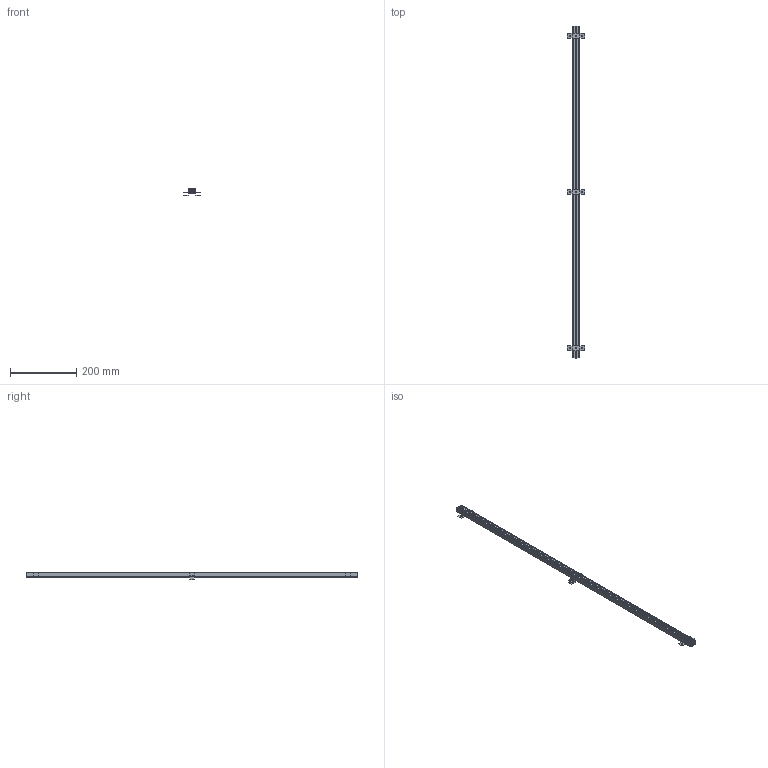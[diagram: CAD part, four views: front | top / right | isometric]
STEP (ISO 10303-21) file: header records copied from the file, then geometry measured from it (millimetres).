
FILE_DESCRIPTION( ( 'Unknown' ), '1' );
FILE_NAME( 'X:/DOCUMENTAZIONE/PROGETTI Roadmap/2014 - W1/007-RECESSED HOMOGENEOUS PROFILE/DISEGNI e 3D FINALI/SLACKLINE 1M.stp', 'Unknown', ( 'Unknown' ), ( 'Unknown' ), 'PSStep 13.0', 'Unknown', ' ' );
FILE_SCHEMA( ( 'AUTOMOTIVE_DESIGN { 1 0 10303 214 1 1 1 1 }' ) );
Length unit declared in the file: millimetre
Products named in the file (4): Assem1; profilo; staffa; schermo
Bounding box: 51.4 x 1000 x 21.25 mm (x, y, z)
Volume: 312757 mm3; surface area: 338176 mm2
Topology: 8 solids, 8 shells, 254 faces, 718 edges, 480 vertices
Faces by surface type: plane 170, cylinder 84
Full cylindrical faces by diameter (mm): 3 x4, 5 x8
Entity records: 4173 total; most frequent: CARTESIAN_POINT 585, ORIENTED_EDGE 570, DIRECTION 563, EDGE_CURVE 285, LINE 223, VECTOR 223, VERTEX_POINT 192, AXIS2_PLACEMENT_3D 170
